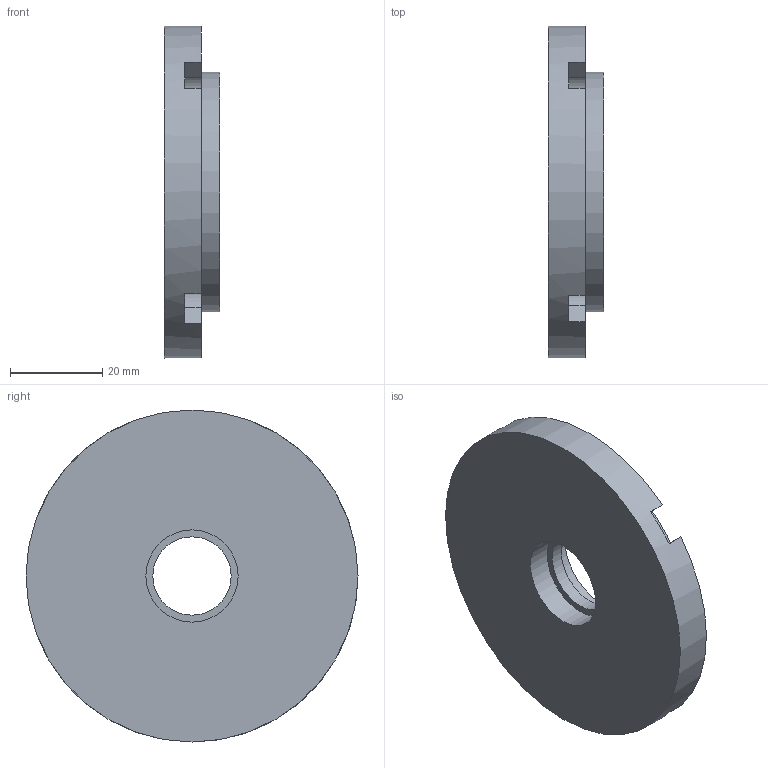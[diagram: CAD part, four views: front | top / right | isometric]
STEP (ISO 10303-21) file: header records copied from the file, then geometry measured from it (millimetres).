
FILE_DESCRIPTION(/* description */ (''),/* implementation_level */ '2;1');
FILE_NAME(/* name */ 'C:\Users\학생용\Desktop\390803E1017-S.stp',/* time_stamp */ '2019-08-24T11:57:42+09:00',/* author */ ('학생용'),/* organization */ (''),/* preprocessor_version */ 'ST-DEVELOPER v15.2',/* originating_system */ 'Autodesk Inventor 2014',/* authorisation */ '');
FILE_SCHEMA (('AUTOMOTIVE_DESIGN { 1 0 10303 214 3 1 1 }'));
Length unit declared in the file: millimetre
Products named in the file (1): 1111
Bounding box: 12 x 72 x 72 mm (x, y, z)
Volume: 35611.2 mm3; surface area: 11438.7 mm2
Topology: 1 solids, 1 shells, 34 faces, 76 edges, 51 vertices
Faces by surface type: plane 21, cylinder 13
Full cylindrical faces by diameter (mm): 7 x4, 17 x1, 20 x1, 23 x1, 52 x1, 72 x1
Entity records: 933 total; most frequent: DIRECTION 170, CARTESIAN_POINT 151, ORIENTED_EDGE 132, AXIS2_PLACEMENT_3D 69, EDGE_CURVE 66, EDGE_LOOP 52, VERTEX_POINT 50, CIRCLE 34
